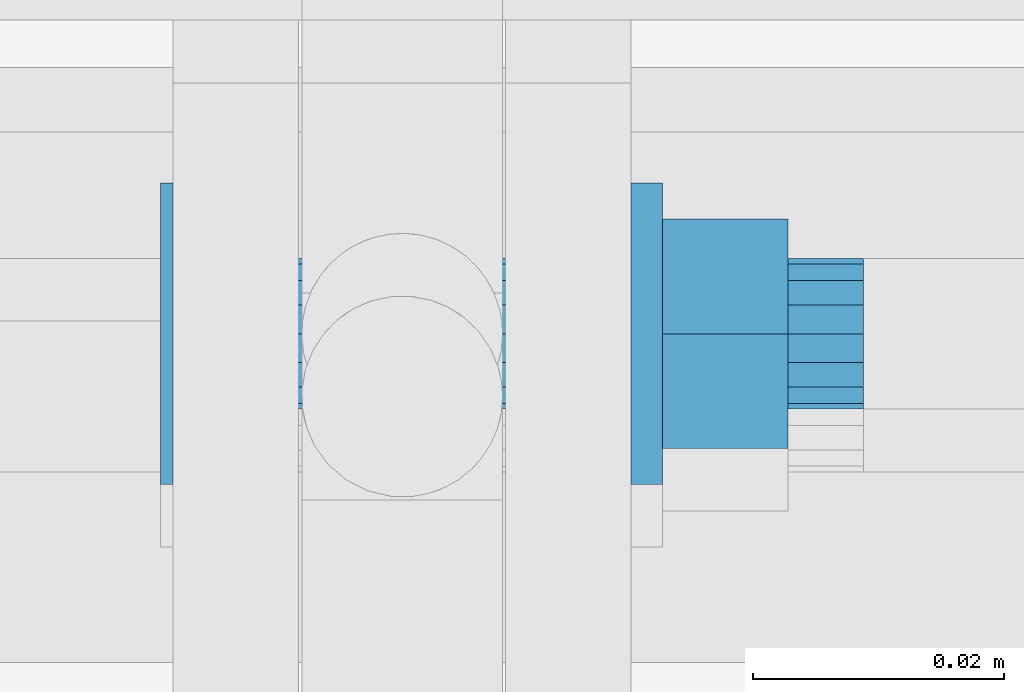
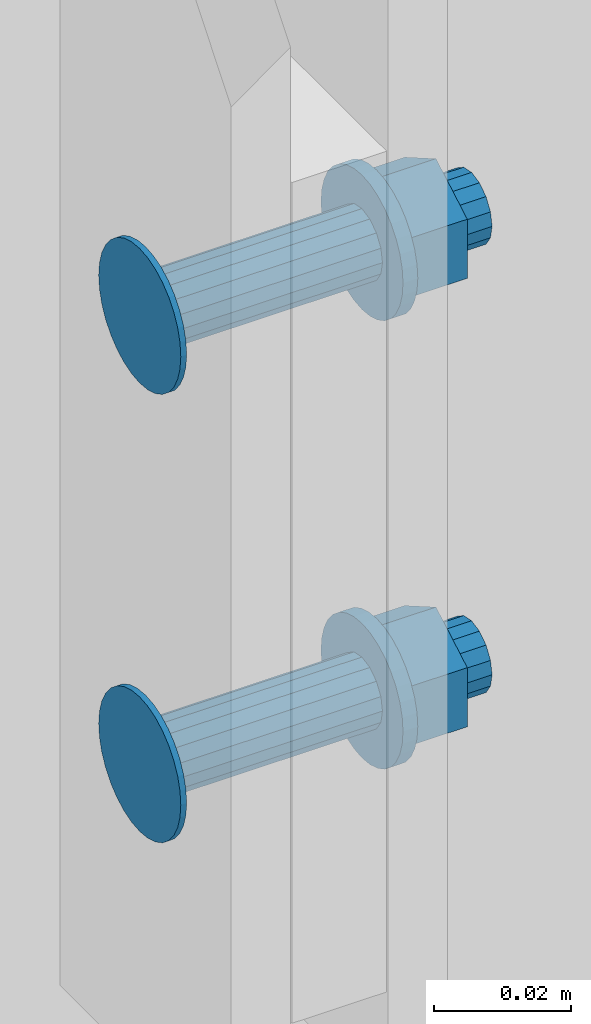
# One storey, part 52 of 98: 1 mechanical fastener.
"""IFC2X3 building model written with IfcOpenShell, lengths in millimetres."""

from ifc_helpers import new_model, entity, si_unit, converted_unit, origin_with_axes, place, context, project, spatial, faceted_brep, element, save


model = new_model("IFC2X3")

# Units and contexts
model_context = context("Model", 3, precision=1e-09, world=origin_with_axes())
ifc_project = project(units=[si_unit("LENGTHUNIT", "METRE", prefix="MILLI"), si_unit("AREAUNIT", "SQUARE_METRE"), si_unit("VOLUMEUNIT", "CUBIC_METRE"), converted_unit("PLANEANGLEUNIT", "DEGREE", entity("IfcPlaneAngleMeasure", 0.01745329), si_unit("PLANEANGLEUNIT", "RADIAN"), dimensions=[0, 0, 0, 0, 0, 0, 0])], contexts=[model_context])

# Site, building, storey
site_placement = place(None, origin_with_axes())
site = spatial("IfcSite", under=ifc_project, at=site_placement, Name="Maybachstra?e 2, 71563 Affalterbach", CompositionType="ELEMENT")
building_placement = place(site_placement, origin_with_axes())
building = spatial("IfcBuilding", under=site, at=building_placement, Name="Struktur 1", CompositionType="ELEMENT")
storey_placement = place(building_placement, origin_with_axes())
storey = spatial("IfcBuildingStorey", under=building, at=storey_placement, Name="Default Storey", CompositionType="ELEMENT", Elevation=0.0)

# Mechanical fastener
mechanical_fastener_placement = place(None, origin_with_axes())
element("IfcMechanicalFastener", 1, at=mechanical_fastener_placement, inside=storey, ObjectType="-", NominalDiameter=12.0, NominalLength=55.0, context=model_context, shape_type="Brep", body=[
    faceted_brep([(11356.779157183, -52.0, 2606.082336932), (11355.779157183, -52.0, 2606.082336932), (11355.779157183, -51.769423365, 2603.741253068), (11356.779157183, -51.769423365, 2603.741253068), (11355.779157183, -51.08655439, 2601.490135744), (11356.779157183, -51.08655439, 2601.490135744), (11355.779157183, -49.977635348, 2599.415494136), (11356.779157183, -49.977635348, 2599.415494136), (11355.779157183, -48.485281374, 2597.597055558), (11356.779157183, -48.485281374, 2597.597055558), (11355.779157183, -46.666842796, 2596.104701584), (11356.779157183, -46.666842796, 2596.104701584), (11355.779157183, -44.592201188, 2594.995782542), (11356.779157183, -44.592201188, 2594.995782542), (11355.779157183, -42.341083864, 2594.312913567), (11356.779157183, -42.341083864, 2594.312913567), (11355.779157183, -40.0, 2594.082336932), (11356.779157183, -40.0, 2594.082336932), (11355.779157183, -37.658916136, 2594.312913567), (11356.779157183, -37.658916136, 2594.312913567), (11355.779157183, -35.407798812, 2594.995782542), (11356.779157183, -35.407798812, 2594.995782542), (11355.779157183, -33.333157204, 2596.104701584), (11356.779157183, -33.333157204, 2596.104701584), (11355.779157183, -31.514718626, 2597.597055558), (11356.779157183, -31.514718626, 2597.597055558), (11355.779157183, -30.022364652, 2599.415494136), (11356.779157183, -30.022364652, 2599.415494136), (11355.779157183, -28.91344561, 2601.490135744), (11356.779157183, -28.91344561, 2601.490135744), (11355.779157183, -28.230576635, 2603.741253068), (11356.779157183, -28.230576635, 2603.741253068), (11355.779157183, -28.0, 2606.082336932), (11356.779157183, -28.0, 2606.082336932), (11355.779157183, -28.230576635, 2608.423420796), (11356.779157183, -28.230576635, 2608.423420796), (11355.779157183, -28.91344561, 2610.67453812), (11356.779157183, -28.91344561, 2610.67453812), (11355.779157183, -30.022364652, 2612.749179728), (11356.779157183, -30.022364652, 2612.749179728), (11355.779157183, -31.514718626, 2614.567618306), (11356.779157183, -31.514718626, 2614.567618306), (11355.779157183, -33.333157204, 2616.05997228), (11356.779157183, -33.333157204, 2616.05997228), (11355.779157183, -35.407798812, 2617.168891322), (11356.779157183, -35.407798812, 2617.168891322), (11355.779157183, -37.658916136, 2617.851760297), (11356.779157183, -37.658916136, 2617.851760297), (11355.779157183, -40.0, 2618.082336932), (11356.779157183, -40.0, 2618.082336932), (11355.779157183, -42.341083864, 2617.851760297), (11356.779157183, -42.341083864, 2617.851760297), (11355.779157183, -44.592201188, 2617.168891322), (11356.779157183, -44.592201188, 2617.168891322), (11355.779157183, -46.666842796, 2616.05997228), (11356.779157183, -46.666842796, 2616.05997228), (11355.779157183, -48.485281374, 2614.567618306), (11356.779157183, -48.485281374, 2614.567618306), (11355.779157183, -49.977635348, 2612.749179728), (11356.779157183, -49.977635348, 2612.749179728), (11355.779157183, -51.08655439, 2610.67453812), (11356.779157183, -51.08655439, 2610.67453812), (11355.779157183, -51.769423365, 2608.423420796), (11356.779157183, -51.769423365, 2608.423420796)], [[[0, 1, 2, 3]], [[3, 2, 4, 5]], [[5, 4, 6, 7]], [[7, 6, 8, 9]], [[9, 8, 10, 11]], [[11, 10, 12, 13]], [[13, 12, 14, 15]], [[15, 14, 16, 17]], [[17, 16, 18, 19]], [[19, 18, 20, 21]], [[21, 20, 22, 23]], [[23, 22, 24, 25]], [[25, 24, 26, 27]], [[27, 26, 28, 29]], [[29, 28, 30, 31]], [[31, 30, 32, 33]], [[33, 32, 34, 35]], [[35, 34, 36, 37]], [[37, 36, 38, 39]], [[39, 38, 40, 41]], [[41, 40, 42, 43]], [[43, 42, 44, 45]], [[45, 44, 46, 47]], [[47, 46, 48, 49]], [[49, 48, 50, 51]], [[51, 50, 52, 53]], [[53, 52, 54, 55]], [[55, 54, 56, 57]], [[57, 56, 58, 59]], [[59, 58, 60, 61]], [[61, 60, 62, 63]], [[63, 62, 1, 0]], [[2, 1, 62, 60, 58, 56, 54, 52, 50, 48, 46, 44, 42, 40, 38, 36, 34, 32, 30, 28, 26, 24, 22, 20, 18, 16, 14, 12, 10, 8, 6, 4]], [[63, 0, 3, 5, 7, 9, 11, 13, 15, 17, 19, 21, 23, 25, 27, 29, 31, 33, 35, 37, 39, 41, 43, 45, 47, 49, 51, 53, 55, 57, 59, 61]]]),
    faceted_brep([(11356.779157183, -52.0, 2526.082336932), (11355.779157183, -52.0, 2526.082336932), (11355.779157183, -51.769423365, 2523.741253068), (11356.779157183, -51.769423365, 2523.741253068), (11355.779157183, -51.08655439, 2521.490135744), (11356.779157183, -51.08655439, 2521.490135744), (11355.779157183, -49.977635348, 2519.415494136), (11356.779157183, -49.977635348, 2519.415494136), (11355.779157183, -48.485281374, 2517.597055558), (11356.779157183, -48.485281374, 2517.597055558), (11355.779157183, -46.666842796, 2516.104701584), (11356.779157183, -46.666842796, 2516.104701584), (11355.779157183, -44.592201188, 2514.995782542), (11356.779157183, -44.592201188, 2514.995782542), (11355.779157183, -42.341083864, 2514.312913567), (11356.779157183, -42.341083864, 2514.312913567), (11355.779157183, -40.0, 2514.082336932), (11356.779157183, -40.0, 2514.082336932), (11355.779157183, -37.658916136, 2514.312913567), (11356.779157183, -37.658916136, 2514.312913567), (11355.779157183, -35.407798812, 2514.995782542), (11356.779157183, -35.407798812, 2514.995782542), (11355.779157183, -33.333157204, 2516.104701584), (11356.779157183, -33.333157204, 2516.104701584), (11355.779157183, -31.514718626, 2517.597055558), (11356.779157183, -31.514718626, 2517.597055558), (11355.779157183, -30.022364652, 2519.415494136), (11356.779157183, -30.022364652, 2519.415494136), (11355.779157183, -28.91344561, 2521.490135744), (11356.779157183, -28.91344561, 2521.490135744), (11355.779157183, -28.230576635, 2523.741253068), (11356.779157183, -28.230576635, 2523.741253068), (11355.779157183, -28.0, 2526.082336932), (11356.779157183, -28.0, 2526.082336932), (11355.779157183, -28.230576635, 2528.423420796), (11356.779157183, -28.230576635, 2528.423420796), (11355.779157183, -28.91344561, 2530.67453812), (11356.779157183, -28.91344561, 2530.67453812), (11355.779157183, -30.022364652, 2532.749179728), (11356.779157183, -30.022364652, 2532.749179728), (11355.779157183, -31.514718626, 2534.567618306), (11356.779157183, -31.514718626, 2534.567618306), (11355.779157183, -33.333157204, 2536.05997228), (11356.779157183, -33.333157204, 2536.05997228), (11355.779157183, -35.407798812, 2537.168891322), (11356.779157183, -35.407798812, 2537.168891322), (11355.779157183, -37.658916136, 2537.851760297), (11356.779157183, -37.658916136, 2537.851760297), (11355.779157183, -40.0, 2538.082336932), (11356.779157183, -40.0, 2538.082336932), (11355.779157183, -42.341083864, 2537.851760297), (11356.779157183, -42.341083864, 2537.851760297), (11355.779157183, -44.592201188, 2537.168891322), (11356.779157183, -44.592201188, 2537.168891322), (11355.779157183, -46.666842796, 2536.05997228), (11356.779157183, -46.666842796, 2536.05997228), (11355.779157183, -48.485281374, 2534.567618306), (11356.779157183, -48.485281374, 2534.567618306), (11355.779157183, -49.977635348, 2532.749179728), (11356.779157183, -49.977635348, 2532.749179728), (11355.779157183, -51.08655439, 2530.67453812), (11356.779157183, -51.08655439, 2530.67453812), (11355.779157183, -51.769423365, 2528.423420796), (11356.779157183, -51.769423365, 2528.423420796)], [[[0, 1, 2, 3]], [[3, 2, 4, 5]], [[5, 4, 6, 7]], [[7, 6, 8, 9]], [[9, 8, 10, 11]], [[11, 10, 12, 13]], [[13, 12, 14, 15]], [[15, 14, 16, 17]], [[17, 16, 18, 19]], [[19, 18, 20, 21]], [[21, 20, 22, 23]], [[23, 22, 24, 25]], [[25, 24, 26, 27]], [[27, 26, 28, 29]], [[29, 28, 30, 31]], [[31, 30, 32, 33]], [[33, 32, 34, 35]], [[35, 34, 36, 37]], [[37, 36, 38, 39]], [[39, 38, 40, 41]], [[41, 40, 42, 43]], [[43, 42, 44, 45]], [[45, 44, 46, 47]], [[47, 46, 48, 49]], [[49, 48, 50, 51]], [[51, 50, 52, 53]], [[53, 52, 54, 55]], [[55, 54, 56, 57]], [[57, 56, 58, 59]], [[59, 58, 60, 61]], [[61, 60, 62, 63]], [[63, 62, 1, 0]], [[2, 1, 62, 60, 58, 56, 54, 52, 50, 48, 46, 44, 42, 40, 38, 36, 34, 32, 30, 28, 26, 24, 22, 20, 18, 16, 14, 12, 10, 8, 6, 4]], [[63, 0, 3, 5, 7, 9, 11, 13, 15, 17, 19, 21, 23, 25, 27, 29, 31, 33, 35, 37, 39, 41, 43, 45, 47, 49, 51, 53, 55, 57, 59, 61]]]),
    faceted_brep([(11393.279157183, -46.0, 2606.082336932), (11356.779157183, -46.0, 2606.082336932), (11356.779157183, -45.543277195, 2603.786236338), (11393.279157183, -45.543277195, 2603.786236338), (11356.779157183, -44.242640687, 2601.839696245), (11393.279157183, -44.242640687, 2601.839696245), (11356.779157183, -42.296100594, 2600.539059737), (11393.279157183, -42.296100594, 2600.539059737), (11356.779157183, -40.0, 2600.082336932), (11393.279157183, -40.0, 2600.082336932), (11356.779157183, -37.703899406, 2600.539059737), (11393.279157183, -37.703899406, 2600.539059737), (11356.779157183, -35.757359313, 2601.839696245), (11393.279157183, -35.757359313, 2601.839696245), (11356.779157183, -34.456722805, 2603.786236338), (11393.279157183, -34.456722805, 2603.786236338), (11356.779157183, -34.0, 2606.082336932), (11393.279157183, -34.0, 2606.082336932), (11356.779157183, -34.456722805, 2608.378437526), (11393.279157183, -34.456722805, 2608.378437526), (11356.779157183, -35.757359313, 2610.324977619), (11393.279157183, -35.757359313, 2610.324977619), (11356.779157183, -37.703899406, 2611.625614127), (11393.279157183, -37.703899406, 2611.625614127), (11356.779157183, -40.0, 2612.082336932), (11393.279157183, -40.0, 2612.082336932), (11356.779157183, -42.296100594, 2611.625614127), (11393.279157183, -42.296100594, 2611.625614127), (11356.779157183, -44.242640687, 2610.324977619), (11393.279157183, -44.242640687, 2610.324977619), (11356.779157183, -45.543277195, 2608.378437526), (11393.279157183, -45.543277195, 2608.378437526)], [[[0, 1, 2, 3]], [[3, 2, 4, 5]], [[5, 4, 6, 7]], [[7, 6, 8, 9]], [[9, 8, 10, 11]], [[11, 10, 12, 13]], [[13, 12, 14, 15]], [[15, 14, 16, 17]], [[17, 16, 18, 19]], [[19, 18, 20, 21]], [[21, 20, 22, 23]], [[23, 22, 24, 25]], [[25, 24, 26, 27]], [[27, 26, 28, 29]], [[29, 28, 30, 31]], [[31, 30, 1, 0]], [[2, 1, 30, 28, 26, 24, 22, 20, 18, 16, 14, 12, 10, 8, 6, 4]], [[31, 0, 3, 5, 7, 9, 11, 13, 15, 17, 19, 21, 23, 25, 27, 29]]]),
    faceted_brep([(11393.279157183, -46.0, 2526.082336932), (11356.779157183, -46.0, 2526.082336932), (11356.779157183, -45.543277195, 2523.786236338), (11393.279157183, -45.543277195, 2523.786236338), (11356.779157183, -44.242640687, 2521.839696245), (11393.279157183, -44.242640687, 2521.839696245), (11356.779157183, -42.296100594, 2520.539059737), (11393.279157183, -42.296100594, 2520.539059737), (11356.779157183, -40.0, 2520.082336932), (11393.279157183, -40.0, 2520.082336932), (11356.779157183, -37.703899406, 2520.539059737), (11393.279157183, -37.703899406, 2520.539059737), (11356.779157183, -35.757359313, 2521.839696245), (11393.279157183, -35.757359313, 2521.839696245), (11356.779157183, -34.456722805, 2523.786236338), (11393.279157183, -34.456722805, 2523.786236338), (11356.779157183, -34.0, 2526.082336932), (11393.279157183, -34.0, 2526.082336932), (11356.779157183, -34.456722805, 2528.378437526), (11393.279157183, -34.456722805, 2528.378437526), (11356.779157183, -35.757359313, 2530.324977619), (11393.279157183, -35.757359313, 2530.324977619), (11356.779157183, -37.703899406, 2531.625614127), (11393.279157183, -37.703899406, 2531.625614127), (11356.779157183, -40.0, 2532.082336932), (11393.279157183, -40.0, 2532.082336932), (11356.779157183, -42.296100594, 2531.625614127), (11393.279157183, -42.296100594, 2531.625614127), (11356.779157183, -44.242640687, 2530.324977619), (11393.279157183, -44.242640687, 2530.324977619), (11356.779157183, -45.543277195, 2528.378437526), (11393.279157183, -45.543277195, 2528.378437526)], [[[0, 1, 2, 3]], [[3, 2, 4, 5]], [[5, 4, 6, 7]], [[7, 6, 8, 9]], [[9, 8, 10, 11]], [[11, 10, 12, 13]], [[13, 12, 14, 15]], [[15, 14, 16, 17]], [[17, 16, 18, 19]], [[19, 18, 20, 21]], [[21, 20, 22, 23]], [[23, 22, 24, 25]], [[25, 24, 26, 27]], [[27, 26, 28, 29]], [[29, 28, 30, 31]], [[31, 30, 1, 0]], [[2, 1, 30, 28, 26, 24, 22, 20, 18, 16, 14, 12, 10, 8, 6, 4]], [[31, 0, 3, 5, 7, 9, 11, 13, 15, 17, 19, 21, 23, 25, 27, 29]]]),
    faceted_brep([(11395.779157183, -52.0, 2606.082336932), (11393.279157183, -52.0, 2606.082336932), (11393.279157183, -51.769423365, 2603.741253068), (11395.779157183, -51.769423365, 2603.741253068), (11393.279157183, -51.08655439, 2601.490135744), (11395.779157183, -51.08655439, 2601.490135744), (11393.279157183, -49.977635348, 2599.415494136), (11395.779157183, -49.977635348, 2599.415494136), (11393.279157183, -48.485281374, 2597.597055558), (11395.779157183, -48.485281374, 2597.597055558), (11393.279157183, -46.666842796, 2596.104701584), (11395.779157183, -46.666842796, 2596.104701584), (11393.279157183, -44.592201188, 2594.995782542), (11395.779157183, -44.592201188, 2594.995782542), (11393.279157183, -42.341083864, 2594.312913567), (11395.779157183, -42.341083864, 2594.312913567), (11393.279157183, -40.0, 2594.082336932), (11395.779157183, -40.0, 2594.082336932), (11393.279157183, -37.658916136, 2594.312913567), (11395.779157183, -37.658916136, 2594.312913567), (11393.279157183, -35.407798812, 2594.995782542), (11395.779157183, -35.407798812, 2594.995782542), (11393.279157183, -33.333157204, 2596.104701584), (11395.779157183, -33.333157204, 2596.104701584), (11393.279157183, -31.514718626, 2597.597055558), (11395.779157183, -31.514718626, 2597.597055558), (11393.279157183, -30.022364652, 2599.415494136), (11395.779157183, -30.022364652, 2599.415494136), (11393.279157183, -28.91344561, 2601.490135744), (11395.779157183, -28.91344561, 2601.490135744), (11393.279157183, -28.230576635, 2603.741253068), (11395.779157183, -28.230576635, 2603.741253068), (11393.279157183, -28.0, 2606.082336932), (11395.779157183, -28.0, 2606.082336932), (11393.279157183, -28.230576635, 2608.423420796), (11395.779157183, -28.230576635, 2608.423420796), (11393.279157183, -28.91344561, 2610.67453812), (11395.779157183, -28.91344561, 2610.67453812), (11393.279157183, -30.022364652, 2612.749179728), (11395.779157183, -30.022364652, 2612.749179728), (11393.279157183, -31.514718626, 2614.567618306), (11395.779157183, -31.514718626, 2614.567618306), (11393.279157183, -33.333157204, 2616.05997228), (11395.779157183, -33.333157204, 2616.05997228), (11393.279157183, -35.407798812, 2617.168891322), (11395.779157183, -35.407798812, 2617.168891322), (11393.279157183, -37.658916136, 2617.851760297), (11395.779157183, -37.658916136, 2617.851760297), (11393.279157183, -40.0, 2618.082336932), (11395.779157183, -40.0, 2618.082336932), (11393.279157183, -42.341083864, 2617.851760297), (11395.779157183, -42.341083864, 2617.851760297), (11393.279157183, -44.592201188, 2617.168891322), (11395.779157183, -44.592201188, 2617.168891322), (11393.279157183, -46.666842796, 2616.05997228), (11395.779157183, -46.666842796, 2616.05997228), (11393.279157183, -48.485281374, 2614.567618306), (11395.779157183, -48.485281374, 2614.567618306), (11393.279157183, -49.977635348, 2612.749179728), (11395.779157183, -49.977635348, 2612.749179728), (11393.279157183, -51.08655439, 2610.67453812), (11395.779157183, -51.08655439, 2610.67453812), (11393.279157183, -51.769423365, 2608.423420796), (11395.779157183, -51.769423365, 2608.423420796)], [[[0, 1, 2, 3]], [[3, 2, 4, 5]], [[5, 4, 6, 7]], [[7, 6, 8, 9]], [[9, 8, 10, 11]], [[11, 10, 12, 13]], [[13, 12, 14, 15]], [[15, 14, 16, 17]], [[17, 16, 18, 19]], [[19, 18, 20, 21]], [[21, 20, 22, 23]], [[23, 22, 24, 25]], [[25, 24, 26, 27]], [[27, 26, 28, 29]], [[29, 28, 30, 31]], [[31, 30, 32, 33]], [[33, 32, 34, 35]], [[35, 34, 36, 37]], [[37, 36, 38, 39]], [[39, 38, 40, 41]], [[41, 40, 42, 43]], [[43, 42, 44, 45]], [[45, 44, 46, 47]], [[47, 46, 48, 49]], [[49, 48, 50, 51]], [[51, 50, 52, 53]], [[53, 52, 54, 55]], [[55, 54, 56, 57]], [[57, 56, 58, 59]], [[59, 58, 60, 61]], [[61, 60, 62, 63]], [[63, 62, 1, 0]], [[2, 1, 62, 60, 58, 56, 54, 52, 50, 48, 46, 44, 42, 40, 38, 36, 34, 32, 30, 28, 26, 24, 22, 20, 18, 16, 14, 12, 10, 8, 6, 4]], [[63, 0, 3, 5, 7, 9, 11, 13, 15, 17, 19, 21, 23, 25, 27, 29, 31, 33, 35, 37, 39, 41, 43, 45, 47, 49, 51, 53, 55, 57, 59, 61]]]),
    faceted_brep([(11395.779157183, -52.0, 2526.082336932), (11393.279157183, -52.0, 2526.082336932), (11393.279157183, -51.769423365, 2523.741253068), (11395.779157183, -51.769423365, 2523.741253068), (11393.279157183, -51.08655439, 2521.490135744), (11395.779157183, -51.08655439, 2521.490135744), (11393.279157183, -49.977635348, 2519.415494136), (11395.779157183, -49.977635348, 2519.415494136), (11393.279157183, -48.485281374, 2517.597055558), (11395.779157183, -48.485281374, 2517.597055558), (11393.279157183, -46.666842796, 2516.104701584), (11395.779157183, -46.666842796, 2516.104701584), (11393.279157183, -44.592201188, 2514.995782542), (11395.779157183, -44.592201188, 2514.995782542), (11393.279157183, -42.341083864, 2514.312913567), (11395.779157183, -42.341083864, 2514.312913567), (11393.279157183, -40.0, 2514.082336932), (11395.779157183, -40.0, 2514.082336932), (11393.279157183, -37.658916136, 2514.312913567), (11395.779157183, -37.658916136, 2514.312913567), (11393.279157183, -35.407798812, 2514.995782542), (11395.779157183, -35.407798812, 2514.995782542), (11393.279157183, -33.333157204, 2516.104701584), (11395.779157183, -33.333157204, 2516.104701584), (11393.279157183, -31.514718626, 2517.597055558), (11395.779157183, -31.514718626, 2517.597055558), (11393.279157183, -30.022364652, 2519.415494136), (11395.779157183, -30.022364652, 2519.415494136), (11393.279157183, -28.91344561, 2521.490135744), (11395.779157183, -28.91344561, 2521.490135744), (11393.279157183, -28.230576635, 2523.741253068), (11395.779157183, -28.230576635, 2523.741253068), (11393.279157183, -28.0, 2526.082336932), (11395.779157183, -28.0, 2526.082336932), (11393.279157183, -28.230576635, 2528.423420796), (11395.779157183, -28.230576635, 2528.423420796), (11393.279157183, -28.91344561, 2530.67453812), (11395.779157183, -28.91344561, 2530.67453812), (11393.279157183, -30.022364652, 2532.749179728), (11395.779157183, -30.022364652, 2532.749179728), (11393.279157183, -31.514718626, 2534.567618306), (11395.779157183, -31.514718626, 2534.567618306), (11393.279157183, -33.333157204, 2536.05997228), (11395.779157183, -33.333157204, 2536.05997228), (11393.279157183, -35.407798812, 2537.168891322), (11395.779157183, -35.407798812, 2537.168891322), (11393.279157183, -37.658916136, 2537.851760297), (11395.779157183, -37.658916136, 2537.851760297), (11393.279157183, -40.0, 2538.082336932), (11395.779157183, -40.0, 2538.082336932), (11393.279157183, -42.341083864, 2537.851760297), (11395.779157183, -42.341083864, 2537.851760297), (11393.279157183, -44.592201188, 2537.168891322), (11395.779157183, -44.592201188, 2537.168891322), (11393.279157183, -46.666842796, 2536.05997228), (11395.779157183, -46.666842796, 2536.05997228), (11393.279157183, -48.485281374, 2534.567618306), (11395.779157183, -48.485281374, 2534.567618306), (11393.279157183, -49.977635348, 2532.749179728), (11395.779157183, -49.977635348, 2532.749179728), (11393.279157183, -51.08655439, 2530.67453812), (11395.779157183, -51.08655439, 2530.67453812), (11393.279157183, -51.769423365, 2528.423420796), (11395.779157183, -51.769423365, 2528.423420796)], [[[0, 1, 2, 3]], [[3, 2, 4, 5]], [[5, 4, 6, 7]], [[7, 6, 8, 9]], [[9, 8, 10, 11]], [[11, 10, 12, 13]], [[13, 12, 14, 15]], [[15, 14, 16, 17]], [[17, 16, 18, 19]], [[19, 18, 20, 21]], [[21, 20, 22, 23]], [[23, 22, 24, 25]], [[25, 24, 26, 27]], [[27, 26, 28, 29]], [[29, 28, 30, 31]], [[31, 30, 32, 33]], [[33, 32, 34, 35]], [[35, 34, 36, 37]], [[37, 36, 38, 39]], [[39, 38, 40, 41]], [[41, 40, 42, 43]], [[43, 42, 44, 45]], [[45, 44, 46, 47]], [[47, 46, 48, 49]], [[49, 48, 50, 51]], [[51, 50, 52, 53]], [[53, 52, 54, 55]], [[55, 54, 56, 57]], [[57, 56, 58, 59]], [[59, 58, 60, 61]], [[61, 60, 62, 63]], [[63, 62, 1, 0]], [[2, 1, 62, 60, 58, 56, 54, 52, 50, 48, 46, 44, 42, 40, 38, 36, 34, 32, 30, 28, 26, 24, 22, 20, 18, 16, 14, 12, 10, 8, 6, 4]], [[63, 0, 3, 5, 7, 9, 11, 13, 15, 17, 19, 21, 23, 25, 27, 29, 31, 33, 35, 37, 39, 41, 43, 45, 47, 49, 51, 53, 55, 57, 59, 61]]]),
    faceted_brep([(11395.779157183, -30.86343199, 2600.807336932), (11405.779157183, -30.86343199, 2600.807336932), (11405.779157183, -40.0, 2595.532336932), (11395.779157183, -40.0, 2595.532336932), (11405.779157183, -49.13656801, 2600.807336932), (11395.779157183, -49.13656801, 2600.807336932), (11405.779157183, -49.13656801, 2611.357336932), (11395.779157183, -49.13656801, 2611.357336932), (11405.779157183, -40.0, 2616.632336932), (11395.779157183, -40.0, 2616.632336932), (11405.779157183, -30.86343199, 2611.357336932), (11395.779157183, -30.86343199, 2611.357336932)], [[[0, 1, 2, 3]], [[3, 2, 4, 5]], [[5, 4, 6, 7]], [[7, 6, 8, 9]], [[9, 8, 10, 11]], [[11, 10, 1, 0]], [[3, 5, 7, 9, 11, 0]], [[2, 1, 10, 8, 6, 4]]]),
    faceted_brep([(11395.779157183, -30.86343199, 2520.807336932), (11405.779157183, -30.86343199, 2520.807336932), (11405.779157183, -40.0, 2515.532336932), (11395.779157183, -40.0, 2515.532336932), (11405.779157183, -49.13656801, 2520.807336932), (11395.779157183, -49.13656801, 2520.807336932), (11405.779157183, -49.13656801, 2531.357336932), (11395.779157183, -49.13656801, 2531.357336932), (11405.779157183, -40.0, 2536.632336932), (11395.779157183, -40.0, 2536.632336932), (11405.779157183, -30.86343199, 2531.357336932), (11395.779157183, -30.86343199, 2531.357336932)], [[[0, 1, 2, 3]], [[3, 2, 4, 5]], [[5, 4, 6, 7]], [[7, 6, 8, 9]], [[9, 8, 10, 11]], [[11, 10, 1, 0]], [[3, 5, 7, 9, 11, 0]], [[2, 1, 10, 8, 6, 4]]]),
    faceted_brep([(11411.779157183, -46.0, 2606.082336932), (11405.779157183, -46.0, 2606.082336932), (11405.779157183, -45.543277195, 2603.786236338), (11411.779157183, -45.543277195, 2603.786236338), (11405.779157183, -44.242640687, 2601.839696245), (11411.779157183, -44.242640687, 2601.839696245), (11405.779157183, -42.296100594, 2600.539059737), (11411.779157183, -42.296100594, 2600.539059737), (11405.779157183, -40.0, 2600.082336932), (11411.779157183, -40.0, 2600.082336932), (11405.779157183, -37.703899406, 2600.539059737), (11411.779157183, -37.703899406, 2600.539059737), (11405.779157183, -35.757359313, 2601.839696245), (11411.779157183, -35.757359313, 2601.839696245), (11405.779157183, -34.456722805, 2603.786236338), (11411.779157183, -34.456722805, 2603.786236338), (11405.779157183, -34.0, 2606.082336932), (11411.779157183, -34.0, 2606.082336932), (11405.779157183, -34.456722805, 2608.378437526), (11411.779157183, -34.456722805, 2608.378437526), (11405.779157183, -35.757359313, 2610.324977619), (11411.779157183, -35.757359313, 2610.324977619), (11405.779157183, -37.703899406, 2611.625614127), (11411.779157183, -37.703899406, 2611.625614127), (11405.779157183, -40.0, 2612.082336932), (11411.779157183, -40.0, 2612.082336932), (11405.779157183, -42.296100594, 2611.625614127), (11411.779157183, -42.296100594, 2611.625614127), (11405.779157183, -44.242640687, 2610.324977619), (11411.779157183, -44.242640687, 2610.324977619), (11405.779157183, -45.543277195, 2608.378437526), (11411.779157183, -45.543277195, 2608.378437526)], [[[0, 1, 2, 3]], [[3, 2, 4, 5]], [[5, 4, 6, 7]], [[7, 6, 8, 9]], [[9, 8, 10, 11]], [[11, 10, 12, 13]], [[13, 12, 14, 15]], [[15, 14, 16, 17]], [[17, 16, 18, 19]], [[19, 18, 20, 21]], [[21, 20, 22, 23]], [[23, 22, 24, 25]], [[25, 24, 26, 27]], [[27, 26, 28, 29]], [[29, 28, 30, 31]], [[31, 30, 1, 0]], [[2, 1, 30, 28, 26, 24, 22, 20, 18, 16, 14, 12, 10, 8, 6, 4]], [[31, 0, 3, 5, 7, 9, 11, 13, 15, 17, 19, 21, 23, 25, 27, 29]]]),
    faceted_brep([(11411.779157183, -46.0, 2526.082336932), (11405.779157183, -46.0, 2526.082336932), (11405.779157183, -45.543277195, 2523.786236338), (11411.779157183, -45.543277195, 2523.786236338), (11405.779157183, -44.242640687, 2521.839696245), (11411.779157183, -44.242640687, 2521.839696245), (11405.779157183, -42.296100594, 2520.539059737), (11411.779157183, -42.296100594, 2520.539059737), (11405.779157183, -40.0, 2520.082336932), (11411.779157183, -40.0, 2520.082336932), (11405.779157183, -37.703899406, 2520.539059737), (11411.779157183, -37.703899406, 2520.539059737), (11405.779157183, -35.757359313, 2521.839696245), (11411.779157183, -35.757359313, 2521.839696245), (11405.779157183, -34.456722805, 2523.786236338), (11411.779157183, -34.456722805, 2523.786236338), (11405.779157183, -34.0, 2526.082336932), (11411.779157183, -34.0, 2526.082336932), (11405.779157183, -34.456722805, 2528.378437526), (11411.779157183, -34.456722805, 2528.378437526), (11405.779157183, -35.757359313, 2530.324977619), (11411.779157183, -35.757359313, 2530.324977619), (11405.779157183, -37.703899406, 2531.625614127), (11411.779157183, -37.703899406, 2531.625614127), (11405.779157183, -40.0, 2532.082336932), (11411.779157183, -40.0, 2532.082336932), (11405.779157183, -42.296100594, 2531.625614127), (11411.779157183, -42.296100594, 2531.625614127), (11405.779157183, -44.242640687, 2530.324977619), (11411.779157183, -44.242640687, 2530.324977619), (11405.779157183, -45.543277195, 2528.378437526), (11411.779157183, -45.543277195, 2528.378437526)], [[[0, 1, 2, 3]], [[3, 2, 4, 5]], [[5, 4, 6, 7]], [[7, 6, 8, 9]], [[9, 8, 10, 11]], [[11, 10, 12, 13]], [[13, 12, 14, 15]], [[15, 14, 16, 17]], [[17, 16, 18, 19]], [[19, 18, 20, 21]], [[21, 20, 22, 23]], [[23, 22, 24, 25]], [[25, 24, 26, 27]], [[27, 26, 28, 29]], [[29, 28, 30, 31]], [[31, 30, 1, 0]], [[2, 1, 30, 28, 26, 24, 22, 20, 18, 16, 14, 12, 10, 8, 6, 4]], [[31, 0, 3, 5, 7, 9, 11, 13, 15, 17, 19, 21, 23, 25, 27, 29]]]),
])

save(model, "model.ifc")
